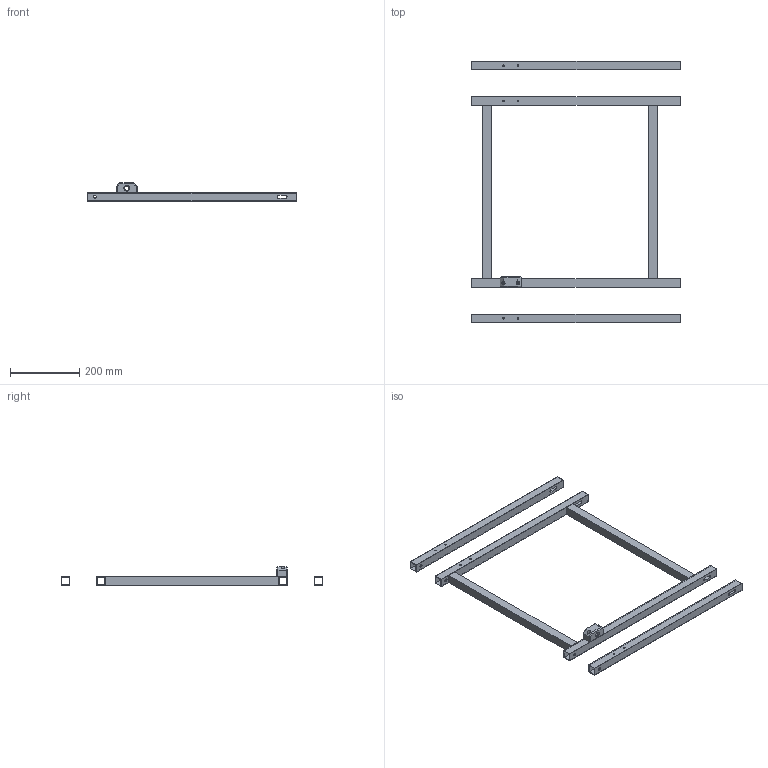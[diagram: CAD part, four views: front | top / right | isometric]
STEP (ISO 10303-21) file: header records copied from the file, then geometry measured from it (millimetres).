
FILE_DESCRIPTION(/* description */ (''),/* implementation_level */ '2;1');
FILE_NAME(/* name */ 'frame.step',/* time_stamp */ '2024-10-14T18:22:57+03:00',/* author */ (''),/* organization */ (''),/* preprocessor_version */ 'ST-DEVELOPER v20',/* originating_system */ 'Autodesk Translation Framework v13.14.0.145',/* authorisation */ '');
FILE_SCHEMA (('AUTOMOTIVE_DESIGN { 1 0 10303 214 3 1 1 }'));
Length unit declared in the file: millimetre
Products named in the file (5): frame; track 2 v38; Component1; track 2 v32(Mirror); Component1(Mirror)
Assembly tree (6 placements, depth 3):
  frame
    track 2 v38
      Component1  x2
    track 2 v32(Mirror)
      Component1(Mirror)  x2
Bounding box: 600 x 754 x 53 mm (x, y, z)
Volume: 1000200.2 mm3; surface area: 561214.8 mm2
Topology: 7 solids, 7 shells, 137 faces, 355 edges, 234 vertices
Faces by surface type: plane 90, cylinder 47
Full cylindrical faces by diameter (mm): 4.3 x18, 8 x8, 9 x2, 13 x1, 16.05 x2
Entity records: 2884 total; most frequent: DIRECTION 481, CARTESIAN_POINT 469, ORIENTED_EDGE 446, EDGE_CURVE 223, LINE 165, VECTOR 165, AXIS2_PLACEMENT_3D 158, VERTEX_POINT 146
